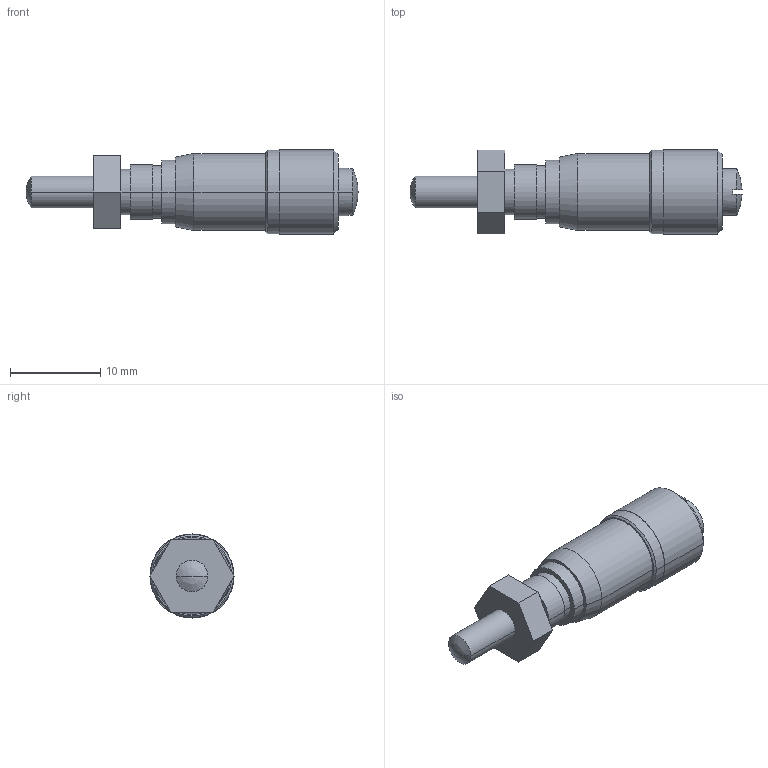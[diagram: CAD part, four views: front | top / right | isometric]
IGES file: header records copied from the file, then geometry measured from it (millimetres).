
Start section: Elysium IGES Interface
Global section: file name: 71HR:\01_商品設計部\01_MK外ﾃｰﾏ(U)\15_MH_3D\IGESﾌｧｲﾙ\148-243_MHT4-6.5FP.igs; native system: Creo Elements/Direct Modeling 18.1B  29-Sep-2012; preprocessor: Creo Element/Direct IGES_3D V2.2; author: Unknown; organization: Unknown; date: 20140623.173026; units: millimetre
Bounding box: 36.69 x 9.3 x 9.3 mm (x, y, z)
Volume: 1544.7 mm3; surface area: 997.1 mm2
Topology: 1 solids, 1 shells, 46 faces, 100 edges, 63 vertices
Faces by surface type: bspline 46
